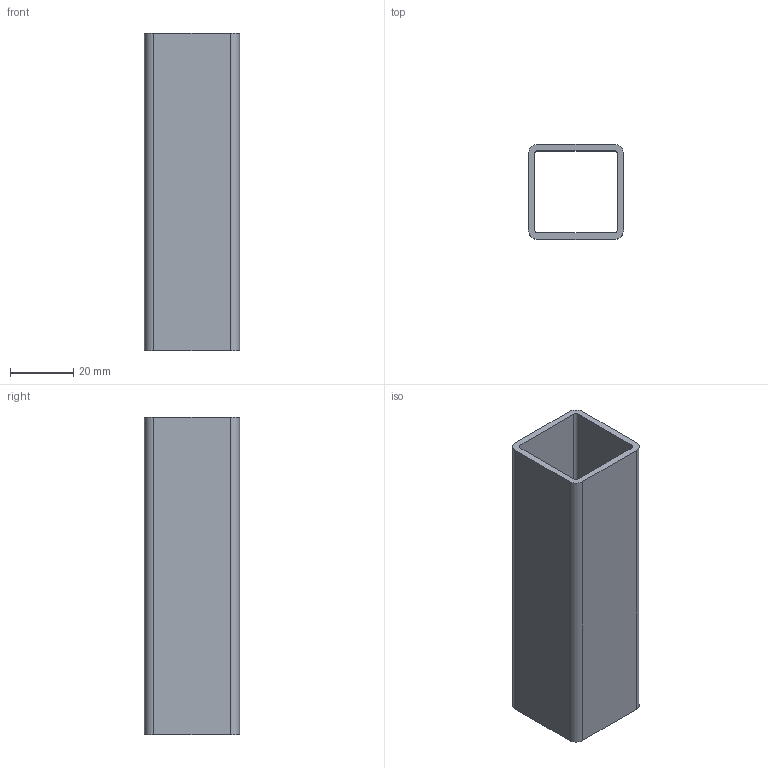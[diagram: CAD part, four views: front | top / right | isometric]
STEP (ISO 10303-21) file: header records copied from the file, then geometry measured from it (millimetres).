
FILE_DESCRIPTION (( 'STEP AP203' ), '1' );
FILE_NAME ('013.030.001.STEP', '2020-07-22T09:10:17', ( '' ), ( '' ), 'SwSTEP 2.0', 'SolidWorks 2018', '' );
FILE_SCHEMA (( 'CONFIG_CONTROL_DESIGN' ));
Length unit declared in the file: millimetre
Products named in the file (1): 013.030.001
Bounding box: 30 x 30 x 100 mm (x, y, z)
Volume: 21713.3 mm3; surface area: 22147.5 mm2
Topology: 1 solids, 1 shells, 18 faces, 48 edges, 32 vertices
Faces by surface type: plane 10, cylinder 8
Entity records: 649 total; most frequent: DIRECTION 102, CARTESIAN_POINT 99, ORIENTED_EDGE 96, EDGE_CURVE 48, AXIS2_PLACEMENT_3D 35, VERTEX_POINT 32, LINE 32, VECTOR 32
